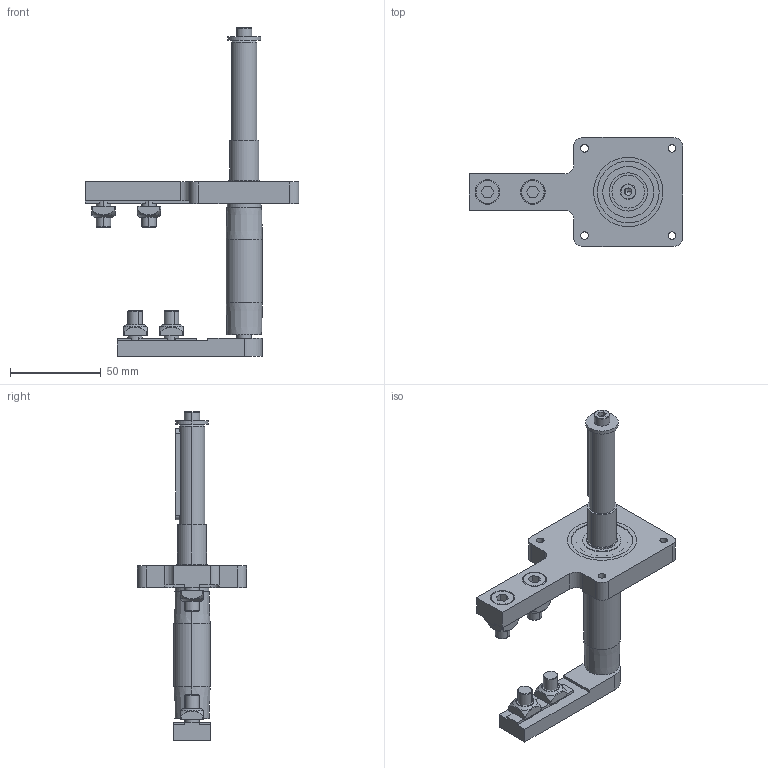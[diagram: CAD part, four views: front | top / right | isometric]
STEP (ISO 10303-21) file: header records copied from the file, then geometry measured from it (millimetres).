
FILE_DESCRIPTION (( 'STEP AP214' ), '1' );
FILE_NAME ('084.020.KD.30.050.STEP', '2021-02-05T13:38:57', ( '' ), ( '' ), 'SwSTEP 2.0', 'SolidWorks 2018', '' );
FILE_SCHEMA (( 'AUTOMOTIVE_DESIGN' ));
Length unit declared in the file: millimetre
Products named in the file (14): 084.020.KD.30.050; 084.802.016_084.802.016; 084.302.000 DADI ALUSIC 13x13-1_084.302.004; 084.800.012; CHIAVETTE_A 5x5x50 UNI 6604-69; Circlip DIN 471 - 8 x 0.8_Circlip DIN 471 - 8 x 0.8; 084.800.002; 084.800.028; Washer ISO 7094 - 5_Washer ISO 7094 - 5; 084.800.007; ISO 4762 M5 x 16 --- 16S_ISO 4762 M5 x 16 --- 16S; 084.301.000 VITI ALUSIC_084.301.003; 084.800.001-1; 084.800.008
Assembly tree (20 placements, depth 2):
  084.020.KD.30.050
    084.800.028
    084.800.001-1
    084.802.016_084.802.016
    084.301.000 VITI ALUSIC_084.301.003  x4
    084.302.000 DADI ALUSIC 13x13-1_084.302.004  x4
    084.800.012  x2
    084.800.008
    084.800.002
    084.800.007
    Washer ISO 7094 - 5_Washer ISO 7094 - 5
    ISO 4762 M5 x 16 --- 16S_ISO 4762 M5 x 16 --- 16S
    CHIAVETTE_A 5x5x50 UNI 6604-69
    Circlip DIN 471 - 8 x 0.8_Circlip DIN 471 - 8 x 0.8
Bounding box: 117.5 x 60 x 180.9 mm (x, y, z)
Volume: 104315.5 mm3; surface area: 53468.8 mm2
Topology: 21 solids, 22 shells, 600 faces, 1455 edges, 920 vertices
Faces by surface type: cylinder 209, plane 187, cone 106, torus 78, bspline 16, sphere 4
Entity records: 14277 total; most frequent: CARTESIAN_POINT 2672, DIRECTION 2508, ORIENTED_EDGE 2132, EDGE_CURVE 1066, AXIS2_PLACEMENT_3D 1019, VERTEX_POINT 677, CIRCLE 560, EDGE_LOOP 493
